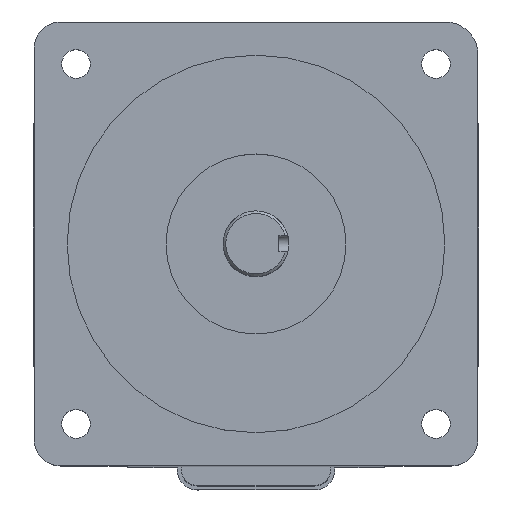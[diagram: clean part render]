
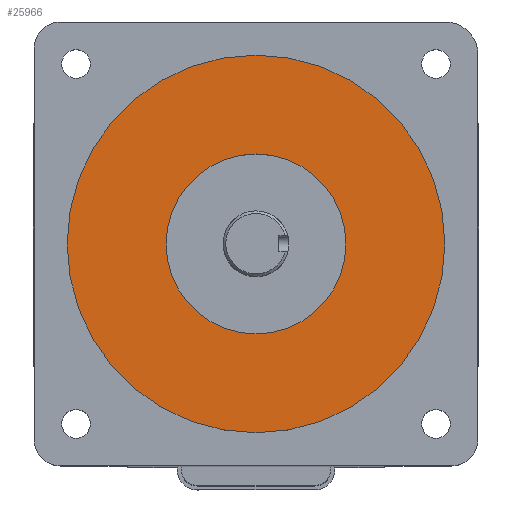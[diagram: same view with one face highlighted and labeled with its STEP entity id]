
A CAD part, top view. The second image highlights one B-rep face of the part: STEP entity #25966.
In plain terms, the highlighted planar face has unit normal (0, 0, 1).
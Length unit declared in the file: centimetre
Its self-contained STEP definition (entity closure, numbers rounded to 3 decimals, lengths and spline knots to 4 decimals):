
#9727=VERTEX_POINT('',#74457);
#9728=VERTEX_POINT('',#74460);
#13586=EDGE_CURVE('',#9727,#9727,#33051,.T.);
#13587=EDGE_CURVE('',#9728,#9728,#33052,.T.);
#21366=ORIENTED_EDGE('',*,*,#13587,.F.);
#21367=ORIENTED_EDGE('',*,*,#13586,.F.);
#22940=EDGE_LOOP('',(#21366));
#22941=EDGE_LOOP('',(#21367));
#24514=FACE_BOUND('',#22940,.T.);
#24515=FACE_BOUND('',#22941,.T.);
#25966=ADVANCED_FACE('',(#24514,#24515),#54312,.T.);
#33051=CIRCLE('',#50234,3.6513);
#33052=CIRCLE('',#50236,1.7399);
#50234=AXIS2_PLACEMENT_3D('',#74456,#79624,#79625);
#50236=AXIS2_PLACEMENT_3D('',#74459,#79628,#79629);
#50237=AXIS2_PLACEMENT_3D('',#74461,#79630,$);
#54312=PLANE('',#50237);
#74456=CARTESIAN_POINT('',(0.,0.,0.15));
#74457=CARTESIAN_POINT('',(3.6513,0.,0.15));
#74459=CARTESIAN_POINT('',(0.,0.,0.15));
#74460=CARTESIAN_POINT('',(1.7399,0.,0.15));
#74461=CARTESIAN_POINT('',(0.,0.,0.15));
#79624=DIRECTION('',(0.,0.,-1.));
#79625=DIRECTION('',(3.651,0.,0.));
#79628=DIRECTION('',(0.,0.,1.));
#79629=DIRECTION('',(1.74,0.,0.));
#79630=DIRECTION('',(0.,0.,1.));
